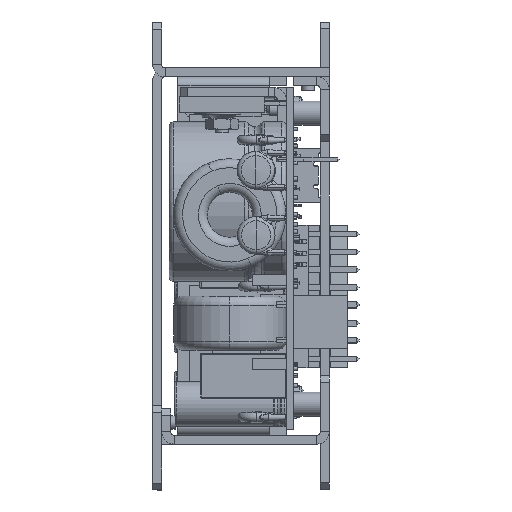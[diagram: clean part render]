
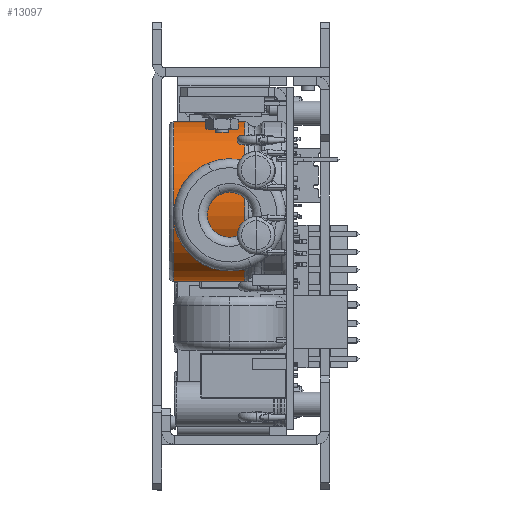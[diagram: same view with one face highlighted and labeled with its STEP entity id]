
A CAD part, left-side view. The second image highlights one B-rep face of the part: STEP entity #13097.
In plain terms, the highlighted cylindrical face has radius 17.78 mm (diameter 35.56 mm), a partial arc.
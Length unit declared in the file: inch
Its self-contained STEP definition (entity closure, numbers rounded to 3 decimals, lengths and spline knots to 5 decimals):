
#12850 = EDGE_CURVE ( 'NONE', #12858, #12930, #69810, .T. ) ;
#12858 = VERTEX_POINT ( 'NONE', #69801 ) ;
#12859 = VERTEX_POINT ( 'NONE', #69800 ) ;
#12930 = VERTEX_POINT ( 'NONE', #69920 ) ;
#12941 = VERTEX_POINT ( 'NONE', #69965 ) ;
#12948 = EDGE_CURVE ( 'NONE', #12859, #12941, #69962, .T. ) ;
#13083 = EDGE_CURVE ( 'NONE', #12930, #12941, #70295, .T. ) ;
#13086 = ORIENTED_EDGE ( 'NONE', *, *, #12948, .T. ) ;
#13092 = ORIENTED_EDGE ( 'NONE', *, *, #13098, .T. ) ;
#13093 = EDGE_LOOP ( 'NONE', ( #13100, #13092, #13086, #13111 ) ) ;
#13097 = ADVANCED_FACE ( 'NONE', ( #70286 ), #70327, .T. ) ;
#13098 = EDGE_CURVE ( 'NONE', #12858, #12859, #70351, .T. ) ;
#13100 = ORIENTED_EDGE ( 'NONE', *, *, #12850, .F. ) ;
#13111 = ORIENTED_EDGE ( 'NONE', *, *, #13083, .F. ) ;
#69800 = CARTESIAN_POINT ( 'NONE',  ( 0., 0.98563, -0.7 ) ) ;
#69801 = CARTESIAN_POINT ( 'NONE',  ( 0., 0.98563, 0.7 ) ) ;
#69807 = DIRECTION ( 'NONE',  ( 0., -1., 0. ) ) ;
#69808 = VECTOR ( 'NONE', #69807, 39.37008 ) ;
#69809 = CARTESIAN_POINT ( 'NONE',  ( 0., 0., 0.7 ) ) ;
#69810 = LINE ( 'NONE', #69809, #69808 ) ;
#69920 = CARTESIAN_POINT ( 'NONE',  ( 0., 0.36171, 0.7 ) ) ;
#69954 = DIRECTION ( 'NONE',  ( 0., -1., 0. ) ) ;
#69955 = VECTOR ( 'NONE', #69954, 39.37008 ) ;
#69956 = CARTESIAN_POINT ( 'NONE',  ( 0., 0., -0.7 ) ) ;
#69962 = LINE ( 'NONE', #69956, #69955 ) ;
#69965 = CARTESIAN_POINT ( 'NONE',  ( 0., 0.36171, -0.7 ) ) ;
#70281 = DIRECTION ( 'NONE',  ( 0., 0., -1. ) ) ;
#70282 = DIRECTION ( 'NONE',  ( 0., -1., 0. ) ) ;
#70283 = CARTESIAN_POINT ( 'NONE',  ( 0., 0.36171, 0. ) ) ;
#70286 = FACE_OUTER_BOUND ( 'NONE', #13093, .T. ) ;
#70294 = CARTESIAN_POINT ( 'NONE',  ( 0., 0.98563, 0. ) ) ;
#70295 = CIRCLE ( 'NONE', #70297, 0.7 ) ;
#70297 = AXIS2_PLACEMENT_3D ( 'NONE', #70283, #70282, #70281 ) ;
#70304 = AXIS2_PLACEMENT_3D ( 'NONE', #70306, #70305, #70355 ) ;
#70305 = DIRECTION ( 'NONE',  ( 0., -1., 0. ) ) ;
#70306 = CARTESIAN_POINT ( 'NONE',  ( 0., 0., 0. ) ) ;
#70327 = CYLINDRICAL_SURFACE ( 'NONE', #70304, 0.7 ) ;
#70348 = DIRECTION ( 'NONE',  ( 0., 0., -1. ) ) ;
#70349 = DIRECTION ( 'NONE',  ( 0., -1., 0. ) ) ;
#70350 = AXIS2_PLACEMENT_3D ( 'NONE', #70294, #70349, #70348 ) ;
#70351 = CIRCLE ( 'NONE', #70350, 0.7 ) ;
#70355 = DIRECTION ( 'NONE',  ( 0., 0., -1. ) ) ;
